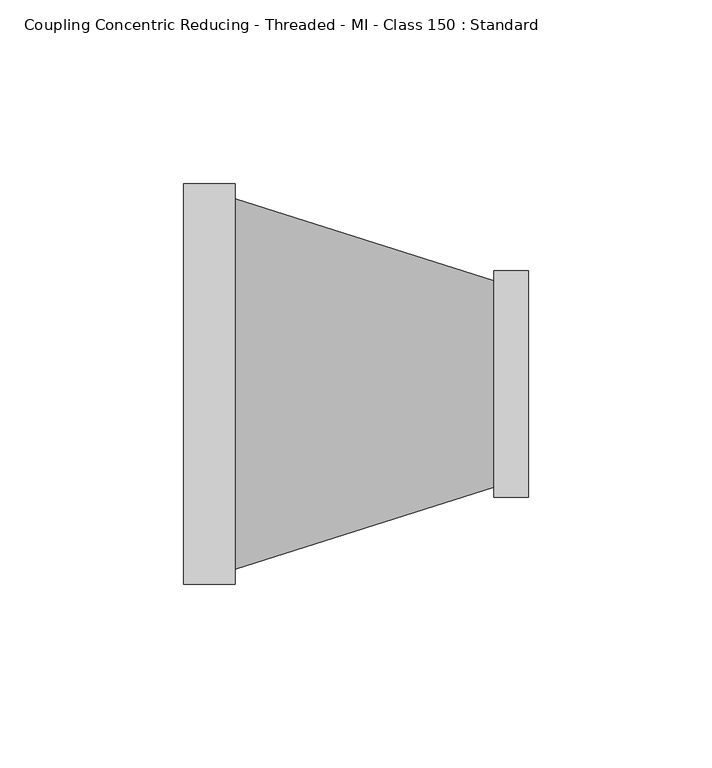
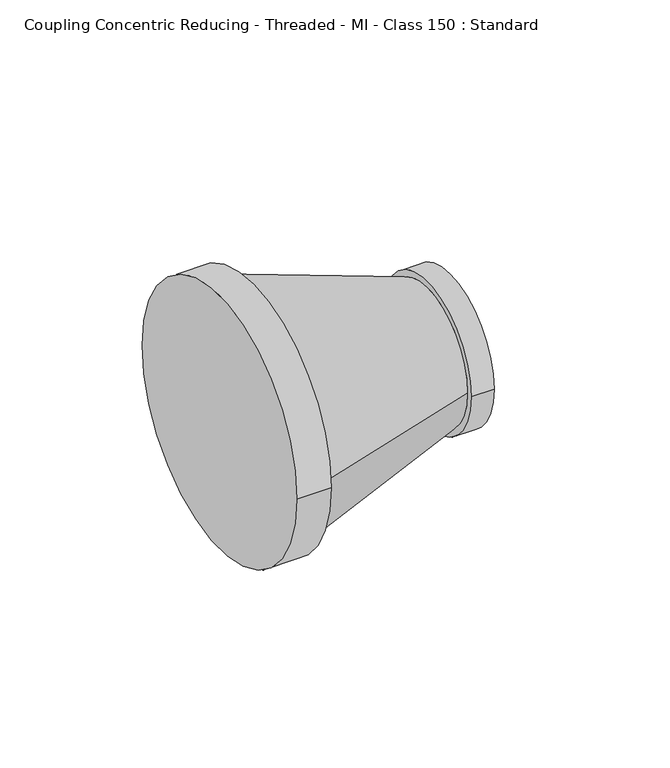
"""IFC4 building model written with IfcOpenShell, lengths in millimetres: pipe fitting geometry, Coupling Concentric Reducing - Threaded - MI - Class 150 : Standard."""

from ifc_helpers import new_model, si_unit, frame, origin, place, context, project, spatial, polyline, circle_curve, source, transform, mapped, element, save
from ifc_brep_helpers import plane_surface, cylinder_surface, revolved_surface, advanced_brep


def coupling_concentric_reducing_threaded_mi_class_150_standard_b9624de7(model_context):
    return source(origin(), model_context, "Body", "AdvancedBrep", [
        advanced_brep(
        [(13.9, -50.32, 0.0), (13.9, 50.32, 0.0), (84.4, 28.09, 0.0), (84.4, -28.09, 0.0), (93.7, 30.8, 0.0), (93.7, -30.8, 0.0), (84.4, 30.8, 0.0), (84.4, -30.8, 0.0), (13.9, 54.4, 0.0), (13.9, -54.4, 0.0), (0.0, 54.4, 0.0), (0.0, -54.4, 0.0)],
        [
            (0, 1, circle_curve(frame((13.9, 0.0, 0.0), z_axis=(1.0, 0.0, 0.0), x_axis=(0.0, 1.0, 0.0)), 50.32)),
            (1, 2),
            (2, 3, circle_curve(frame((84.4, 0.0, 0.0), z_axis=(-1.0, 0.0, 0.0), x_axis=(0.0, 1.0, 0.0)), 28.09)),
            (3, 0),
            (3, 2, circle_curve(frame((84.4, 0.0, 0.0), z_axis=(-1.0, 0.0, 0.0), x_axis=(0.0, -1.0, 0.0)), 28.09)),
            (1, 0, circle_curve(frame((13.9, 0.0, 0.0), z_axis=(1.0, 0.0, 0.0), x_axis=(0.0, -1.0, 0.0)), 50.32)),
            (4, 5, circle_curve(frame((93.7, 0.0, 0.0), z_axis=(1.0, 0.0, 0.0), x_axis=(0.0, -1.0, 0.0)), 30.8)),
            (5, 4, circle_curve(frame((93.7, 0.0, 0.0), z_axis=(1.0, 0.0, 0.0), x_axis=(0.0, -1.0, 0.0)), 30.8)),
            (6, 7, circle_curve(frame((84.4, 0.0, 0.0), z_axis=(-1.0, 0.0, 0.0), x_axis=(0.0, -1.0, 0.0)), 30.8)),
            (7, 6, circle_curve(frame((84.4, 0.0, 0.0), z_axis=(-1.0, 0.0, 0.0), x_axis=(0.0, -1.0, 0.0)), 30.8)),
            (5, 7),
            (6, 4),
            (8, 9, circle_curve(frame((13.9, 0.0, 0.0), z_axis=(1.0, 0.0, 0.0), x_axis=(0.0, -1.0, 0.0)), 54.4)),
            (9, 8, circle_curve(frame((13.9, 0.0, 0.0), z_axis=(1.0, 0.0, 0.0), x_axis=(0.0, -1.0, 0.0)), 54.4)),
            (10, 11, circle_curve(frame((0.0, 0.0, 0.0), z_axis=(-1.0, 0.0, 0.0), x_axis=(0.0, -1.0, 0.0)), 54.4)),
            (11, 10, circle_curve(frame((0.0, 0.0, 0.0), z_axis=(-1.0, 0.0, 0.0), x_axis=(0.0, -1.0, 0.0)), 54.4)),
            (9, 11),
            (10, 8),
        ],
        [
            revolved_surface(polyline([(84.4, -28.09000000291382, 0.0), (13.900000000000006, -50.32, 0.0)]), (173.4843455, 0.0, 0.0), (-1.0, 0.0, 0.0)),
            revolved_surface(polyline([(84.4, 28.09000000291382, 0.0), (13.900000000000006, 50.32, 0.0)]), (173.4843455, 0.0, 0.0), (-1.0, 0.0, 0.0)),
            plane_surface(frame((93.7, -30.8, 0.0), z_axis=(1.0, 0.0, 0.0), x_axis=(0.0, 0.0, 1.0))),
            plane_surface(frame((84.4, -30.8, 0.0), z_axis=(-1.0, 0.0, 0.0), x_axis=(0.0, 0.0, -1.0))),
            cylinder_surface(frame((84.4, 0.0, 0.0), z_axis=(1.0, 0.0, 0.0), x_axis=(0.0, -1.0, 0.0)), 30.8),
            plane_surface(frame((13.9, -54.4, 0.0), z_axis=(1.0, 0.0, 0.0), x_axis=(0.0, 0.0, 1.0))),
            plane_surface(frame((0.0, -54.4, 0.0), z_axis=(-1.0, 0.0, 0.0), x_axis=(0.0, 0.0, -1.0))),
            cylinder_surface(frame((0.0, 0.0, 0.0), z_axis=(1.0, 0.0, 0.0), x_axis=(0.0, -1.0, 0.0)), 54.4),
        ],
        [
            (0, [[1, 2, 3, 4]]),
            (1, [[5, -2, 6, -4]]),
            (2, [[7, 8]]),
            (3, [[9, 10], [-5, -3]]),
            (4, [[11, -9, 12, -8]]),
            (4, [[-12, -10, -11, -7]]),
            (5, [[13, 14], [-6, -1]]),
            (6, [[15, 16]]),
            (7, [[17, -15, 18, -14]]),
            (7, [[-18, -16, -17, -13]]),
        ],
    ),
    ])


if __name__ == "__main__":
    model = new_model("IFC4")
    model_context = context("Model", 3, world=origin())
    ifc_project = project(units=[si_unit("LENGTHUNIT", "METRE", prefix="MILLI")], contexts=[model_context])
    site = spatial("IfcSite", under=ifc_project)
    building = spatial("IfcBuilding", under=site)
    placement = place(None, origin())
    coupling_concentric_reducing_threaded_mi_class_150_standard_shape = coupling_concentric_reducing_threaded_mi_class_150_standard_b9624de7(model_context)
    element("IfcPipeFitting", 1, ObjectType="Coupling Concentric Reducing - Threaded - MI - Class 150 : Standard", at=placement, inside=building, context=model_context, shape_type="MappedRepresentation", body=[
        mapped(coupling_concentric_reducing_threaded_mi_class_150_standard_shape, transform((0.0, 0.0, 0.0), x_axis=(1.0, 0.0, 0.0), y_axis=(0.0, 1.0, 0.0), z_axis=(0.0, 0.0, 1.0))),
    ])
    save(model, "model.ifc")
